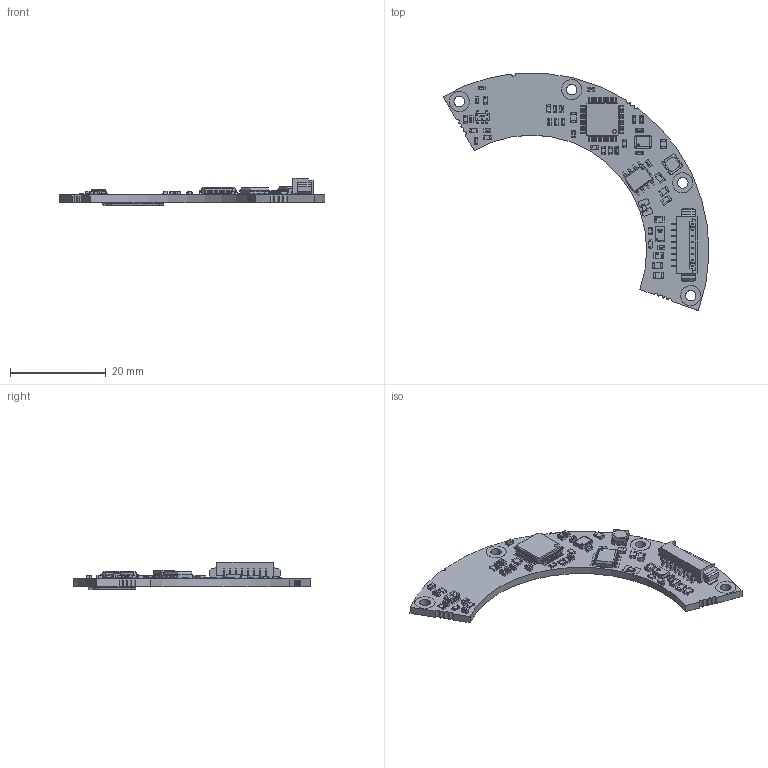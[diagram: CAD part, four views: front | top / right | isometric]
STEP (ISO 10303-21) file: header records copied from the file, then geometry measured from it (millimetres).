
FILE_DESCRIPTION (( 'STEP AP214' ), '1' );
FILE_NAME ('MB064-D_2.STEP', '2019-07-23T13:04:52', ( '' ), ( '' ), 'SwSTEP 2.0', 'SolidWorks 2016', '' );
FILE_SCHEMA (( 'AUTOMOTIVE_DESIGN' ));
Length unit declared in the file: millimetre
Products named in the file (1): MB064-D_2
Bounding box: 55.48 x 49.56 x 5.68 mm (x, y, z)
Volume: 1834.2 mm3; surface area: 3538 mm2
Topology: 118 solids, 118 shells, 4154 faces, 11416 edges, 7592 vertices
Faces by surface type: plane 2871, cylinder 829, bspline 454
Entity records: 156907 total; most frequent: CARTESIAN_POINT 49296, ORIENTED_EDGE 22464, DIRECTION 17625, EDGE_CURVE 11232, LINE 7737, VECTOR 7737, VERTEX_POINT 7592, AXIS2_PLACEMENT_3D 4944
